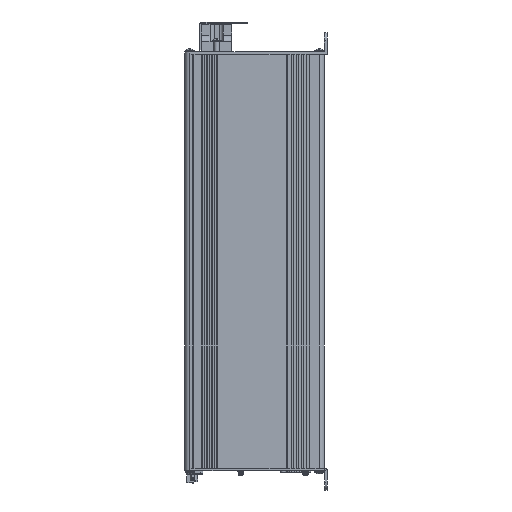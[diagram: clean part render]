
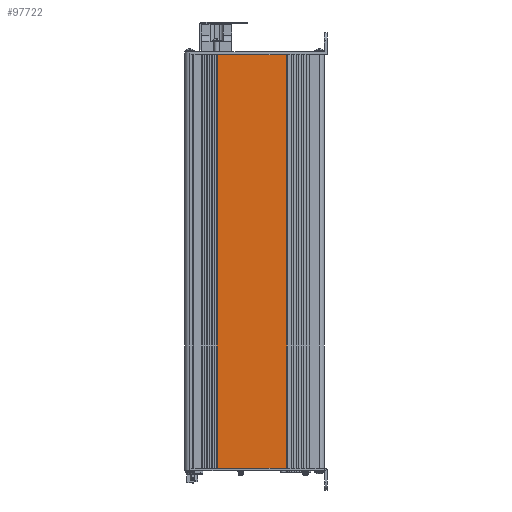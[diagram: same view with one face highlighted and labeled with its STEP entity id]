
A CAD part, left-side view. The second image highlights one B-rep face of the part: STEP entity #97722.
In plain terms, the highlighted planar face has unit normal (-1, 0, 0).
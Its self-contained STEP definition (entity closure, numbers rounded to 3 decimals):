
#6254=PLANE('',#103523);
#11692=LINE('',#155159,#20542);
#13037=LINE('',#168339,#21887);
#13256=LINE('',#168893,#22106);
#13257=LINE('',#168895,#22107);
#20542=VECTOR('',#114661,10.);
#21887=VECTOR('',#119354,10.);
#22106=VECTOR('',#119899,10.);
#22107=VECTOR('',#119902,10.);
#29266=FACE_OUTER_BOUND('',#34862,.T.);
#34862=EDGE_LOOP('',(#80100,#80101,#80102,#80103));
#44047=VERTEX_POINT('',#155156);
#44048=VERTEX_POINT('',#155158);
#45547=VERTEX_POINT('',#168336);
#45548=VERTEX_POINT('',#168338);
#54970=EDGE_CURVE('',#44048,#44047,#11692,.T.);
#57448=EDGE_CURVE('',#45547,#45548,#13037,.T.);
#57730=EDGE_CURVE('',#44047,#45548,#13256,.T.);
#57731=EDGE_CURVE('',#44048,#45547,#13257,.T.);
#80100=ORIENTED_EDGE('',*,*,#54970,.T.);
#80101=ORIENTED_EDGE('',*,*,#57730,.T.);
#80102=ORIENTED_EDGE('',*,*,#57448,.F.);
#80103=ORIENTED_EDGE('',*,*,#57731,.F.);
#97722=ADVANCED_FACE('',(#29266),#6254,.T.);
#103523=AXIS2_PLACEMENT_3D('',#168894,#119900,#119901);
#114661=DIRECTION('',(0.,-1.,0.));
#119354=DIRECTION('',(0.,-1.,0.));
#119899=DIRECTION('',(0.,0.,1.));
#119900=DIRECTION('center_axis',(-1.,0.,0.));
#119901=DIRECTION('ref_axis',(0.,-1.,0.));
#119902=DIRECTION('',(0.,0.,1.));
#155156=CARTESIAN_POINT('',(57.285,91.781,0.));
#155158=CARTESIAN_POINT('',(57.285,161.781,0.));
#155159=CARTESIAN_POINT('',(57.285,161.781,0.));
#168336=CARTESIAN_POINT('',(57.285,161.781,415.));
#168338=CARTESIAN_POINT('',(57.285,91.781,415.));
#168339=CARTESIAN_POINT('',(57.285,161.781,415.));
#168893=CARTESIAN_POINT('',(57.285,91.781,0.));
#168894=CARTESIAN_POINT('Origin',(57.285,161.781,0.));
#168895=CARTESIAN_POINT('',(57.285,161.781,0.));
